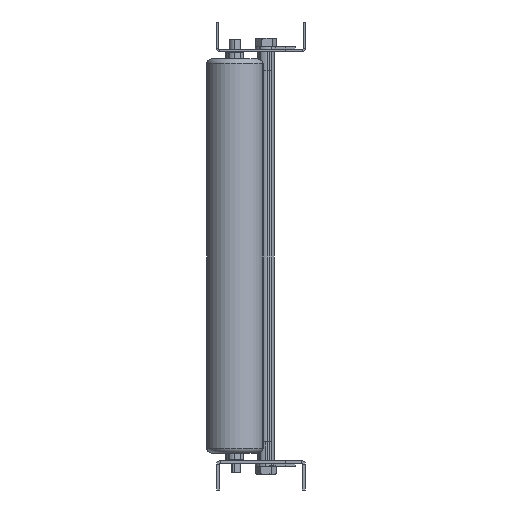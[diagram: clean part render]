
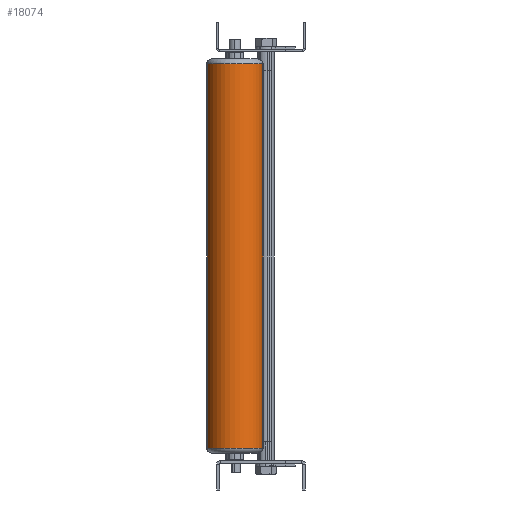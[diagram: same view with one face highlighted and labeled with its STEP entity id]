
A CAD part, left-side view. The second image highlights one B-rep face of the part: STEP entity #18074.
In plain terms, the highlighted cylindrical face has radius 28.6 mm (diameter 57.2 mm), a partial arc.
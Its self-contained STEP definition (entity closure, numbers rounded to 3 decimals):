
#311 = CIRCLE ( 'NONE', #33075, 28.6 ) ;
#1204 = CARTESIAN_POINT ( 'NONE',  ( -1541.898, -343.642, -73.545 ) ) ;
#2024 = CYLINDRICAL_SURFACE ( 'NONE', #27493, 28.6 ) ;
#4589 = ORIENTED_EDGE ( 'NONE', *, *, #26986, .T. ) ;
#4897 = CARTESIAN_POINT ( 'NONE',  ( -1541.898, -343.642, -463.545 ) ) ;
#6263 = VECTOR ( 'NONE', #27941, 1000. ) ;
#7613 = LINE ( 'NONE', #16333, #6263 ) ;
#7910 = VECTOR ( 'NONE', #30420, 1000. ) ;
#8035 = DIRECTION ( 'NONE',  ( -0.179, -0.984, 0. ) ) ;
#10952 = FACE_OUTER_BOUND ( 'NONE', #12404, .T. ) ;
#11042 = EDGE_CURVE ( 'NONE', #36388, #34874, #311, .T. ) ;
#12404 = EDGE_LOOP ( 'NONE', ( #27855, #4589, #33342, #24548 ) ) ;
#13114 = LINE ( 'NONE', #24914, #7910 ) ;
#13327 = AXIS2_PLACEMENT_3D ( 'NONE', #34060, #16930, #8035 ) ;
#16253 = CARTESIAN_POINT ( 'NONE',  ( -1536.768, -315.506, -468.545 ) ) ;
#16333 = CARTESIAN_POINT ( 'NONE',  ( -1541.898, -343.642, -468.545 ) ) ;
#16470 = EDGE_CURVE ( 'NONE', #30934, #34874, #13114, .T. ) ;
#16930 = DIRECTION ( 'NONE',  ( 0., 0., 1. ) ) ;
#17144 = DIRECTION ( 'NONE',  ( -0.179, -0.984, 0. ) ) ;
#18074 = ADVANCED_FACE ( 'NONE', ( #10952 ), #2024, .T. ) ;
#19314 = CARTESIAN_POINT ( 'NONE',  ( -1531.639, -287.37, -463.545 ) ) ;
#20197 = DIRECTION ( 'NONE',  ( 0., 0., -1. ) ) ;
#22551 = DIRECTION ( 'NONE',  ( 0., 0., 1. ) ) ;
#23240 = CARTESIAN_POINT ( 'NONE',  ( -1536.768, -315.506, -73.545 ) ) ;
#24475 = VERTEX_POINT ( 'NONE', #4897 ) ;
#24548 = ORIENTED_EDGE ( 'NONE', *, *, #16470, .F. ) ;
#24914 = CARTESIAN_POINT ( 'NONE',  ( -1531.639, -287.37, -468.545 ) ) ;
#26986 = EDGE_CURVE ( 'NONE', #24475, #36388, #7613, .T. ) ;
#27493 = AXIS2_PLACEMENT_3D ( 'NONE', #16253, #22551, #27858 ) ;
#27855 = ORIENTED_EDGE ( 'NONE', *, *, #36571, .T. ) ;
#27858 = DIRECTION ( 'NONE',  ( 0.179, 0.984, 0. ) ) ;
#27941 = DIRECTION ( 'NONE',  ( 0., 0., 1. ) ) ;
#30420 = DIRECTION ( 'NONE',  ( 0., 0., 1. ) ) ;
#30934 = VERTEX_POINT ( 'NONE', #19314 ) ;
#33075 = AXIS2_PLACEMENT_3D ( 'NONE', #23240, #20197, #17144 ) ;
#33342 = ORIENTED_EDGE ( 'NONE', *, *, #11042, .T. ) ;
#34020 = CARTESIAN_POINT ( 'NONE',  ( -1531.639, -287.37, -73.545 ) ) ;
#34060 = CARTESIAN_POINT ( 'NONE',  ( -1536.768, -315.506, -463.545 ) ) ;
#34874 = VERTEX_POINT ( 'NONE', #34020 ) ;
#36388 = VERTEX_POINT ( 'NONE', #1204 ) ;
#36571 = EDGE_CURVE ( 'NONE', #30934, #24475, #37038, .T. ) ;
#37038 = CIRCLE ( 'NONE', #13327, 28.6 ) ;
